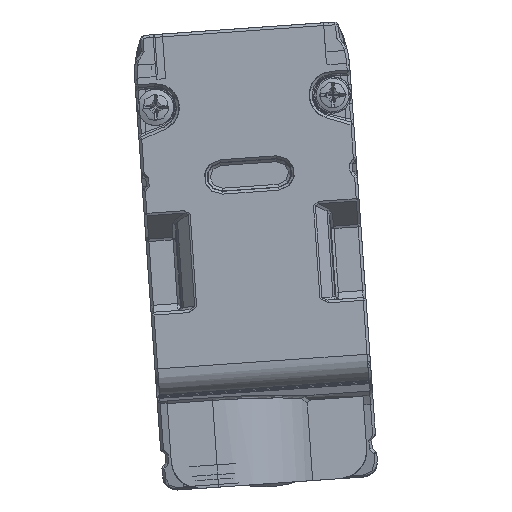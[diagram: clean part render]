
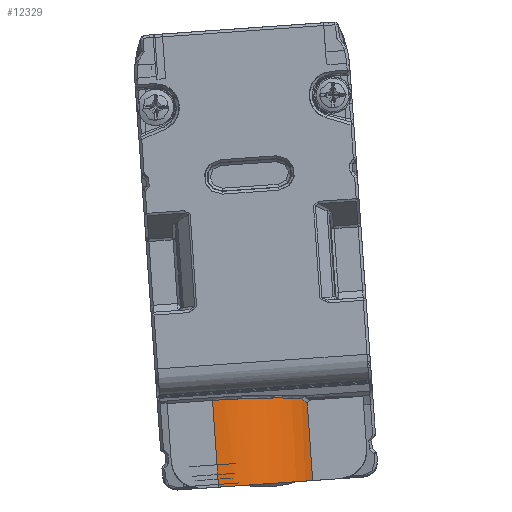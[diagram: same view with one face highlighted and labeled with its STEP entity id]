
A CAD part, front view. The second image highlights one B-rep face of the part: STEP entity #12329.
In plain terms, the highlighted cylindrical face has radius 7.5 mm (diameter 15 mm), a partial arc.
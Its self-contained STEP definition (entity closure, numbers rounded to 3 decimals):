
#3208=B_SPLINE_CURVE_WITH_KNOTS('',3,(#67762,#67763,#67764,#67765),
 .UNSPECIFIED.,.F.,.F.,(4,4),(0.,1.),.UNSPECIFIED.);
#3209=B_SPLINE_CURVE_WITH_KNOTS('',3,(#67768,#67769,#67770,#67771,#67772,
#67773,#67774,#67775,#67776,#67777),.UNSPECIFIED.,.F.,.F.,(4,2,2,2,4),(0.,
0.25,0.5,0.75,1.),.UNSPECIFIED.);
#3210=B_SPLINE_CURVE_WITH_KNOTS('',3,(#67779,#67780,#67781,#67782),
 .UNSPECIFIED.,.F.,.F.,(4,4),(0.,1.),.UNSPECIFIED.);
#3211=B_SPLINE_CURVE_WITH_KNOTS('',3,(#67784,#67785,#67786,#67787),
 .UNSPECIFIED.,.F.,.F.,(4,4),(0.,1.),.UNSPECIFIED.);
#3212=B_SPLINE_CURVE_WITH_KNOTS('',3,(#67789,#67790,#67791,#67792,#67793,
#67794,#67795,#67796,#67797,#67798),.UNSPECIFIED.,.F.,.F.,(4,2,2,2,4),(0.,
0.25,0.5,0.75,1.),.UNSPECIFIED.);
#10451=CYLINDRICAL_SURFACE('',#33024,7.5);
#12329=ADVANCED_FACE('',(#13581),#10451,.T.);
#13581=FACE_OUTER_BOUND('',#14674,.T.);
#14674=EDGE_LOOP('',(#19992,#19993,#19994,#19995,#19996));
#19992=ORIENTED_EDGE('',*,*,#29438,.T.);
#19993=ORIENTED_EDGE('',*,*,#29439,.T.);
#19994=ORIENTED_EDGE('',*,*,#29440,.T.);
#19995=ORIENTED_EDGE('',*,*,#29441,.T.);
#19996=ORIENTED_EDGE('',*,*,#29442,.T.);
#24564=VERTEX_POINT('',#67766);
#24565=VERTEX_POINT('',#67767);
#24566=VERTEX_POINT('',#67778);
#24567=VERTEX_POINT('',#67783);
#24568=VERTEX_POINT('',#67788);
#29438=EDGE_CURVE('',#24564,#24565,#3208,.T.);
#29439=EDGE_CURVE('',#24565,#24566,#3209,.T.);
#29440=EDGE_CURVE('',#24566,#24567,#3210,.T.);
#29441=EDGE_CURVE('',#24567,#24568,#3211,.T.);
#29442=EDGE_CURVE('',#24568,#24564,#3212,.T.);
#33024=AXIS2_PLACEMENT_3D('',#67799,#37088,#37089);
#37088=DIRECTION('',(0.07,0.,-0.998));
#37089=DIRECTION('',(0.,1.,0.));
#67762=CARTESIAN_POINT('',(-47.863,-834.818,20.616));
#67763=CARTESIAN_POINT('',(-47.719,-834.818,18.55));
#67764=CARTESIAN_POINT('',(-47.574,-834.818,16.484));
#67765=CARTESIAN_POINT('',(-47.43,-834.818,14.418));
#67766=CARTESIAN_POINT('',(-47.863,-834.818,20.616));
#67767=CARTESIAN_POINT('',(-47.43,-834.818,14.418));
#67768=CARTESIAN_POINT('',(-47.43,-834.818,14.418));
#67769=CARTESIAN_POINT('',(-46.732,-834.818,14.467));
#67770=CARTESIAN_POINT('',(-46.035,-834.72,14.515));
#67771=CARTESIAN_POINT('',(-44.695,-834.334,14.609));
#67772=CARTESIAN_POINT('',(-44.052,-834.047,14.654));
#67773=CARTESIAN_POINT('',(-42.869,-833.305,14.737));
#67774=CARTESIAN_POINT('',(-42.33,-832.851,14.774));
#67775=CARTESIAN_POINT('',(-41.398,-831.811,14.84));
#67776=CARTESIAN_POINT('',(-41.005,-831.225,14.867));
#67777=CARTESIAN_POINT('',(-40.701,-830.597,14.888));
#67778=CARTESIAN_POINT('',(-40.701,-830.597,14.888));
#67779=CARTESIAN_POINT('',(-40.701,-830.597,14.888));
#67780=CARTESIAN_POINT('',(-40.83,-830.597,16.737));
#67781=CARTESIAN_POINT('',(-40.959,-830.597,18.586));
#67782=CARTESIAN_POINT('',(-41.088,-830.597,20.435));
#67783=CARTESIAN_POINT('',(-41.088,-830.597,20.435));
#67784=CARTESIAN_POINT('',(-41.088,-830.597,20.435));
#67785=CARTESIAN_POINT('',(-41.193,-830.783,20.628));
#67786=CARTESIAN_POINT('',(-41.321,-831.013,20.731));
#67787=CARTESIAN_POINT('',(-41.487,-831.278,20.743));
#67788=CARTESIAN_POINT('',(-41.487,-831.278,20.743));
#67789=CARTESIAN_POINT('',(-41.487,-831.278,20.743));
#67790=CARTESIAN_POINT('',(-41.856,-831.868,20.771));
#67791=CARTESIAN_POINT('',(-42.299,-832.393,20.786));
#67792=CARTESIAN_POINT('',(-43.281,-833.292,20.797));
#67793=CARTESIAN_POINT('',(-43.82,-833.665,20.793));
#67794=CARTESIAN_POINT('',(-44.944,-834.255,20.767));
#67795=CARTESIAN_POINT('',(-45.53,-834.47,20.746));
#67796=CARTESIAN_POINT('',(-46.703,-834.752,20.691));
#67797=CARTESIAN_POINT('',(-47.291,-834.818,20.656));
#67798=CARTESIAN_POINT('',(-47.863,-834.818,20.616));
#67799=CARTESIAN_POINT('',(-52.434,-827.318,85.982));
